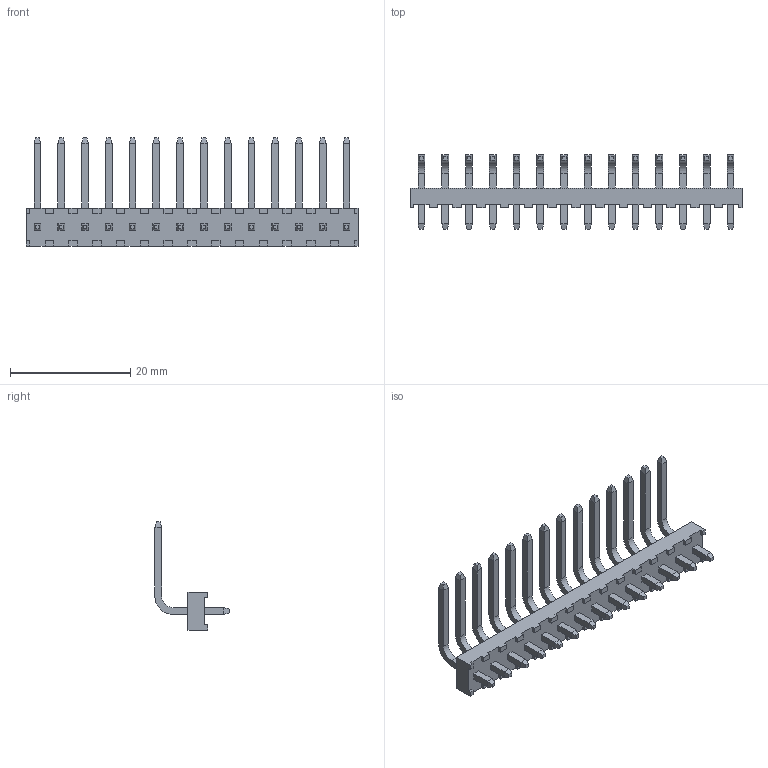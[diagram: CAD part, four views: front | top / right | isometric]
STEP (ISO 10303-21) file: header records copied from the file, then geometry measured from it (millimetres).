
FILE_DESCRIPTION((''),'2;1');
FILE_NAME('026603140','2015-04-21T',('me'),(''),'PRO/ENGINEER BY PARAMETRIC TECHNOLOGY CORPORATION, 2011490','PRO/ENGINEER BY PARAMETRIC TECHNOLOGY CORPORATION, 2011490','');
FILE_SCHEMA(('CONFIG_CONTROL_DESIGN'));
Length unit declared in the file: inch
Products named in the file (1): 026603140
Bounding box: 55.32 x 12.38 x 18.03 mm (x, y, z)
Volume: 1404.2 mm3; surface area: 2527.3 mm2
Topology: 1 solids, 1 shells, 430 faces, 1116 edges, 716 vertices
Faces by surface type: plane 402, cylinder 28
Entity records: 12811 total; most frequent: CARTESIAN_POINT 2235, ORIENTED_EDGE 2176, DIRECTION 2062, EDGE_CURVE 1088, VECTOR 1032, LINE 1032, VERTEX_POINT 688, AXIS2_PLACEMENT_3D 515
